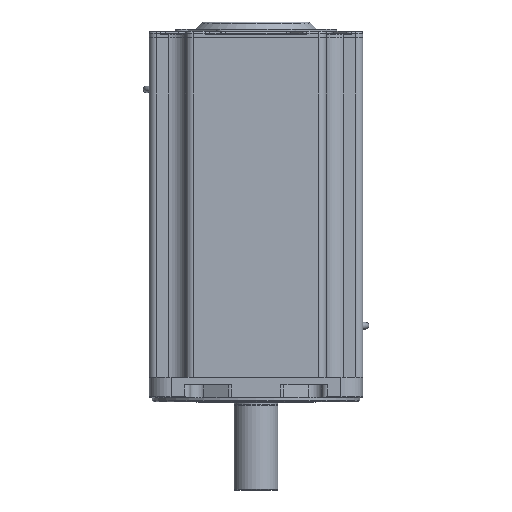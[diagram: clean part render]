
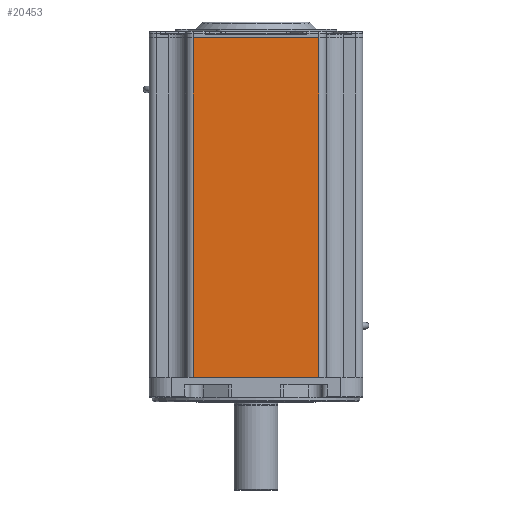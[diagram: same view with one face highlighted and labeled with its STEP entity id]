
A CAD part, front view. The second image highlights one B-rep face of the part: STEP entity #20453.
In plain terms, the highlighted planar face has unit normal (0, -1, 0).
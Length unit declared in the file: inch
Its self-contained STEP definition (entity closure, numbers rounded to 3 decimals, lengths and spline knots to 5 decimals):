
#5607=CARTESIAN_POINT('',(2.14,-3.64,11.91));
#5608=VERTEX_POINT('',#5607);
#5820=CARTESIAN_POINT('',(-2.14,-3.64,11.91));
#5821=VERTEX_POINT('',#5820);
#5828=CARTESIAN_POINT('',(-2.14,-3.64,11.91));
#5829=DIRECTION('',(1.0,0.0,0.0));
#5830=VECTOR('',#5829,4.28);
#5831=LINE('',#5828,#5830);
#5832=EDGE_CURVE('',#5821,#5608,#5831,.T.);
#7878=CARTESIAN_POINT('',(-2.14,-3.64,0.35));
#7879=VERTEX_POINT('',#7878);
#7887=CARTESIAN_POINT('',(-2.14,-3.64,0.35));
#7888=DIRECTION('',(0.0,0.0,1.0));
#7889=VECTOR('',#7888,11.56);
#7890=LINE('',#7887,#7889);
#7891=EDGE_CURVE('',#7879,#5821,#7890,.T.);
#20418=CARTESIAN_POINT('',(2.14,-3.64,0.35));
#20419=VERTEX_POINT('',#20418);
#20420=CARTESIAN_POINT('',(2.14,-3.64,11.91));
#20421=DIRECTION('',(0.0,0.0,-1.0));
#20422=VECTOR('',#20421,11.56);
#20423=LINE('',#20420,#20422);
#20424=EDGE_CURVE('',#5608,#20419,#20423,.T.);
#20437=CARTESIAN_POINT('',(3.64,-3.64,0.0));
#20438=DIRECTION('',(0.0,-1.0,0.0));
#20439=DIRECTION('',(0.0,0.0,-1.0));
#20440=AXIS2_PLACEMENT_3D('',#20437,#20438,#20439);
#20441=PLANE('',#20440);
#20442=ORIENTED_EDGE('',*,*,#5832,.F.);
#20443=ORIENTED_EDGE('',*,*,#7891,.F.);
#20444=CARTESIAN_POINT('',(2.14,-3.64,0.35));
#20445=DIRECTION('',(-1.0,0.0,0.0));
#20446=VECTOR('',#20445,4.28);
#20447=LINE('',#20444,#20446);
#20448=EDGE_CURVE('',#20419,#7879,#20447,.T.);
#20449=ORIENTED_EDGE('',*,*,#20448,.F.);
#20450=ORIENTED_EDGE('',*,*,#20424,.F.);
#20451=EDGE_LOOP('',(#20442,#20443,#20449,#20450));
#20452=FACE_OUTER_BOUND('',#20451,.T.);
#20453=ADVANCED_FACE('',(#20452),#20441,.T.);
